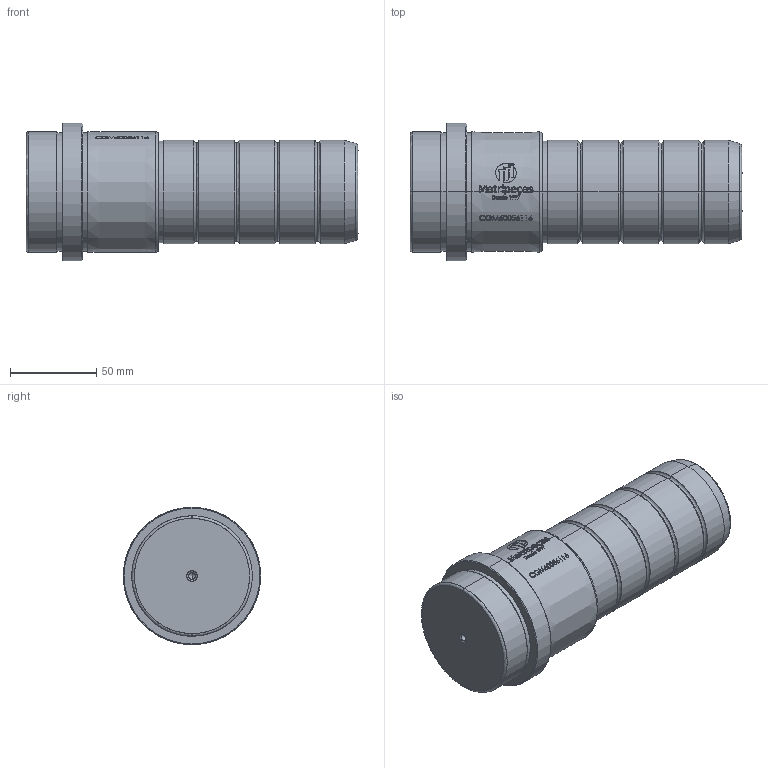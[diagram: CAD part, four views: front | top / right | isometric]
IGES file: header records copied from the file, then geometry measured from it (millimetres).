
Start section: SolidWorks IGES file using analytic representation for surfaces
Global section: file name: E:\1.TRIVECTOR\Clientes\MATRIPEÇAS\PEÇAS_CATALOGO_SITE\6.CGM - COLUNA PRINCIPAL TIPO GUIA (CATÁLOGO)\CGM60056116.IGS; native system: SolidWorks 2024; preprocessor: SolidWorks 2024; author: Gabriel Techio; date: 260914.151745; units: millimetre
Bounding box: 193 x 80 x 80 mm (x, y, z)
Surface area: 50318.6 mm2 (no closed solid volume)
Topology: 0 solids, 0 shells, 526 faces, 6336 edges, 6332 vertices
Faces by surface type: bspline 411, revolution 115
